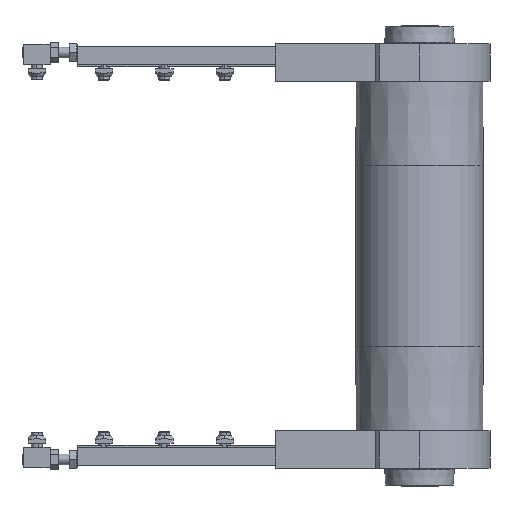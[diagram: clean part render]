
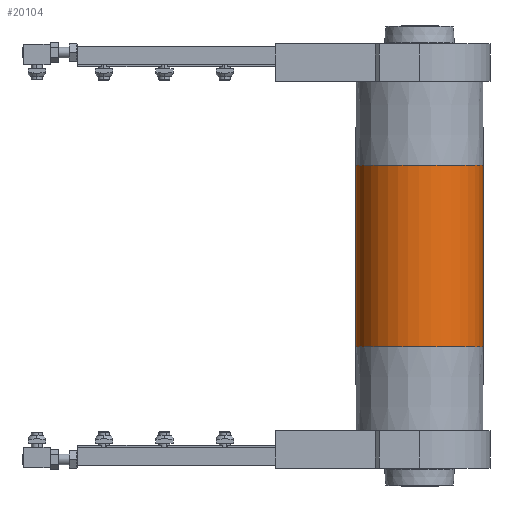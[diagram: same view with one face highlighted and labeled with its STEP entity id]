
A CAD part, front view. The second image highlights one B-rep face of the part: STEP entity #20104.
In plain terms, the highlighted cylindrical face has radius 47.5 mm (diameter 95 mm), a partial arc.
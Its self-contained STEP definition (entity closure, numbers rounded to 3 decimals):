
#86 = VERTEX_POINT ( 'NONE', #18399 ) ;
#995 = CIRCLE ( 'NONE', #21263, 47.5 ) ;
#1096 = VECTOR ( 'NONE', #17987, 1000. ) ;
#1566 = CARTESIAN_POINT ( 'NONE',  ( 135., 0., 0. ) ) ;
#2398 = CARTESIAN_POINT ( 'NONE',  ( -67.5, 0., 0. ) ) ;
#3132 = VERTEX_POINT ( 'NONE', #8581 ) ;
#3513 = EDGE_CURVE ( 'NONE', #20754, #3132, #5614, .T. ) ;
#4132 = DIRECTION ( 'NONE',  ( 0., 0., -1. ) ) ;
#5614 = LINE ( 'NONE', #12840, #1096 ) ;
#7352 = EDGE_CURVE ( 'NONE', #86, #10289, #17257, .T. ) ;
#7489 = CARTESIAN_POINT ( 'NONE',  ( -67.5, 0., 47.5 ) ) ;
#8350 = CARTESIAN_POINT ( 'NONE',  ( 135., 0., 47.5 ) ) ;
#8581 = CARTESIAN_POINT ( 'NONE',  ( -67.5, 0., -47.5 ) ) ;
#8798 = CARTESIAN_POINT ( 'NONE',  ( 67.5, 0., 0. ) ) ;
#8827 = FACE_OUTER_BOUND ( 'NONE', #21289, .T. ) ;
#10141 = DIRECTION ( 'NONE',  ( 0., 0., 1. ) ) ;
#10289 = VERTEX_POINT ( 'NONE', #7489 ) ;
#10439 = AXIS2_PLACEMENT_3D ( 'NONE', #2398, #14231, #4132 ) ;
#10493 = DIRECTION ( 'NONE',  ( 0., 0., -1. ) ) ;
#12458 = ORIENTED_EDGE ( 'NONE', *, *, #7352, .T. ) ;
#12840 = CARTESIAN_POINT ( 'NONE',  ( 135., 0., -47.5 ) ) ;
#13428 = DIRECTION ( 'NONE',  ( -1., 0., 0. ) ) ;
#14231 = DIRECTION ( 'NONE',  ( 1., 0., 0. ) ) ;
#15207 = ORIENTED_EDGE ( 'NONE', *, *, #15414, .F. ) ;
#15414 = EDGE_CURVE ( 'NONE', #86, #20754, #995, .T. ) ;
#16652 = ORIENTED_EDGE ( 'NONE', *, *, #3513, .F. ) ;
#16755 = ORIENTED_EDGE ( 'NONE', *, *, #19069, .T. ) ;
#17257 = LINE ( 'NONE', #8350, #21761 ) ;
#17610 = CARTESIAN_POINT ( 'NONE',  ( 67.5, 0., -47.5 ) ) ;
#17987 = DIRECTION ( 'NONE',  ( -1., 0., 0. ) ) ;
#18222 = AXIS2_PLACEMENT_3D ( 'NONE', #1566, #18553, #10141 ) ;
#18399 = CARTESIAN_POINT ( 'NONE',  ( 67.5, 0., 47.5 ) ) ;
#18553 = DIRECTION ( 'NONE',  ( -1., 0., 0. ) ) ;
#19069 = EDGE_CURVE ( 'NONE', #10289, #3132, #20761, .T. ) ;
#20104 = ADVANCED_FACE ( 'NONE', ( #8827 ), #21763, .T. ) ;
#20629 = DIRECTION ( 'NONE',  ( 1., 0., 0. ) ) ;
#20754 = VERTEX_POINT ( 'NONE', #17610 ) ;
#20761 = CIRCLE ( 'NONE', #10439, 47.5 ) ;
#21263 = AXIS2_PLACEMENT_3D ( 'NONE', #8798, #20629, #10493 ) ;
#21289 = EDGE_LOOP ( 'NONE', ( #16652, #15207, #12458, #16755 ) ) ;
#21761 = VECTOR ( 'NONE', #13428, 1000. ) ;
#21763 = CYLINDRICAL_SURFACE ( 'NONE', #18222, 47.5 ) ;
